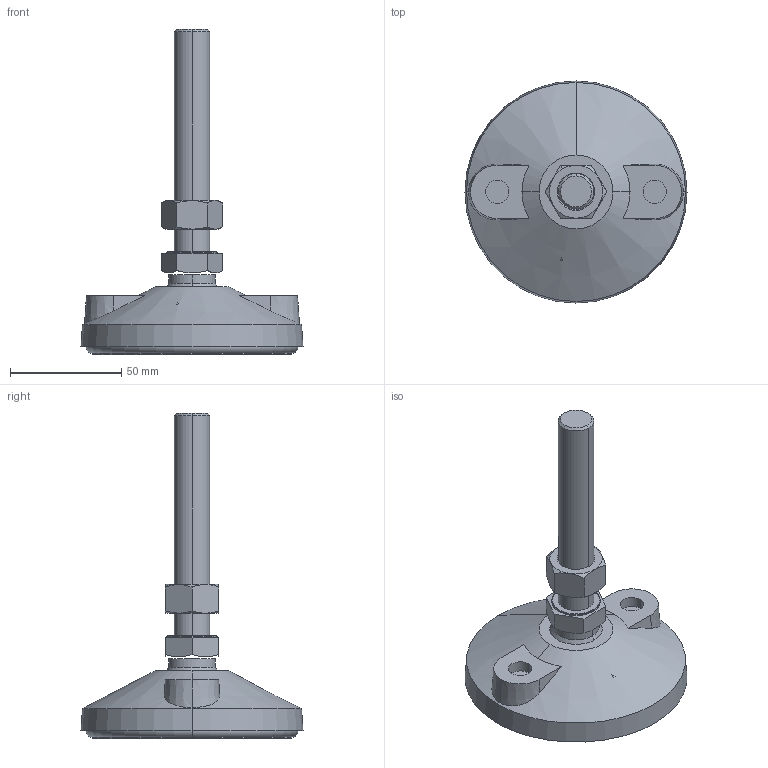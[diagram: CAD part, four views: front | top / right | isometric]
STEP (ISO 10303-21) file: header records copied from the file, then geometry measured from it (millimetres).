
FILE_DESCRIPTION (( 'STEP AP203' ), '1' );
FILE_NAME ('DY-U10016100.STEP', '2022-03-09T03:08:06', ( '' ), ( '' ), 'SwSTEP 2.0', 'SolidWorks 2017', '' );
FILE_SCHEMA (( 'CONFIG_CONTROL_DESIGN' ));
Length unit declared in the file: millimetre
Products named in the file (1): DY-U10016100
Bounding box: 100 x 100 x 146.41 mm (x, y, z)
Surface area: 42124.6 mm2 (no closed solid volume)
Topology: 0 solids, 5 shells, 143 faces, 350 edges, 226 vertices
Faces by surface type: plane 51, bspline 41, cone 28, cylinder 21, torus 2
Entity records: 5824 total; most frequent: CARTESIAN_POINT 2846, ORIENTED_EDGE 659, DIRECTION 504, EDGE_CURVE 346, VERTEX_POINT 226, AXIS2_PLACEMENT_3D 206, EDGE_LOOP 167, FACE_OUTER_BOUND 143
